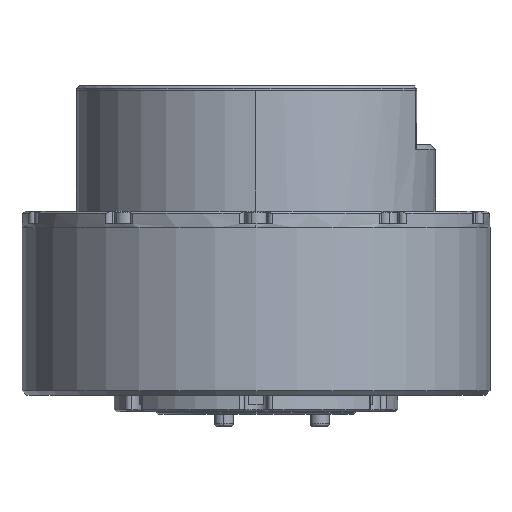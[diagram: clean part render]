
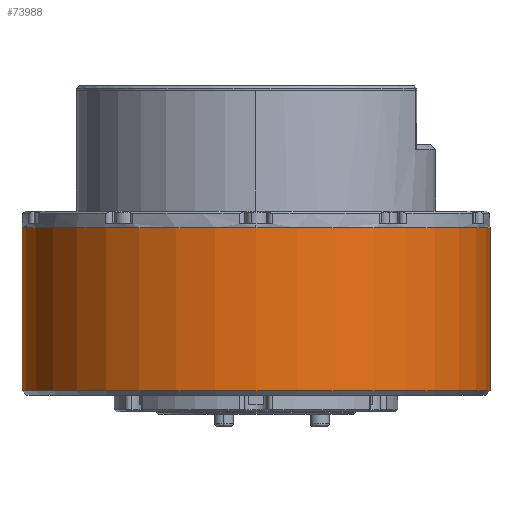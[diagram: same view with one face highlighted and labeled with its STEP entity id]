
A CAD part, front view. The second image highlights one B-rep face of the part: STEP entity #73988.
In plain terms, the highlighted cylindrical face has radius 49.5 mm (diameter 99 mm), a partial arc.
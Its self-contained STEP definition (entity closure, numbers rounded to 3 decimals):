
#1704 = CARTESIAN_POINT ( 'NONE',  ( -49.5, 0., 26.8 ) ) ;
#3002 = DIRECTION ( 'NONE',  ( 0., 0., -1. ) ) ;
#3659 = DIRECTION ( 'NONE',  ( 0., 0., -1. ) ) ;
#4248 = CARTESIAN_POINT ( 'NONE',  ( 0., 0., -7.7 ) ) ;
#10854 = AXIS2_PLACEMENT_3D ( 'NONE', #27678, #46498, #73184 ) ;
#14953 = VERTEX_POINT ( 'NONE', #26068 ) ;
#19553 = VERTEX_POINT ( 'NONE', #1704 ) ;
#21009 = CYLINDRICAL_SURFACE ( 'NONE', #10854, 49.5 ) ;
#23370 = VERTEX_POINT ( 'NONE', #61878 ) ;
#24721 = EDGE_CURVE ( 'NONE', #14953, #51519, #60222, .T. ) ;
#26068 = CARTESIAN_POINT ( 'NONE',  ( 49.5, 0., 26.8 ) ) ;
#27678 = CARTESIAN_POINT ( 'NONE',  ( 0., 0., 31.3 ) ) ;
#27885 = ORIENTED_EDGE ( 'NONE', *, *, #52340, .F. ) ;
#31996 = CIRCLE ( 'NONE', #38598, 49.5 ) ;
#32155 = AXIS2_PLACEMENT_3D ( 'NONE', #4248, #36814, #75615 ) ;
#36814 = DIRECTION ( 'NONE',  ( 0., 0., 1. ) ) ;
#38598 = AXIS2_PLACEMENT_3D ( 'NONE', #82381, #69882, #56912 ) ;
#40485 = VECTOR ( 'NONE', #3002, 1000. ) ;
#43722 = LINE ( 'NONE', #60874, #65801 ) ;
#46498 = DIRECTION ( 'NONE',  ( 0., 0., -1. ) ) ;
#46731 = EDGE_CURVE ( 'NONE', #19553, #23370, #43722, .T. ) ;
#49482 = CIRCLE ( 'NONE', #32155, 49.5 ) ;
#51519 = VERTEX_POINT ( 'NONE', #61425 ) ;
#52340 = EDGE_CURVE ( 'NONE', #19553, #14953, #31996, .T. ) ;
#56912 = DIRECTION ( 'NONE',  ( 1., 0., 0. ) ) ;
#60222 = LINE ( 'NONE', #67727, #40485 ) ;
#60874 = CARTESIAN_POINT ( 'NONE',  ( -49.5, 0., 31.3 ) ) ;
#61425 = CARTESIAN_POINT ( 'NONE',  ( 49.5, 0., -7.7 ) ) ;
#61878 = CARTESIAN_POINT ( 'NONE',  ( -49.5, 0., -7.7 ) ) ;
#63103 = EDGE_LOOP ( 'NONE', ( #74486, #27885, #63839, #68994 ) ) ;
#63839 = ORIENTED_EDGE ( 'NONE', *, *, #46731, .T. ) ;
#65801 = VECTOR ( 'NONE', #3659, 1000. ) ;
#67727 = CARTESIAN_POINT ( 'NONE',  ( 49.5, 0., 31.3 ) ) ;
#68864 = EDGE_CURVE ( 'NONE', #23370, #51519, #49482, .T. ) ;
#68994 = ORIENTED_EDGE ( 'NONE', *, *, #68864, .T. ) ;
#69882 = DIRECTION ( 'NONE',  ( 0., 0., 1. ) ) ;
#73184 = DIRECTION ( 'NONE',  ( -1., 0., 0. ) ) ;
#73988 = ADVANCED_FACE ( 'NONE', ( #78213 ), #21009, .T. ) ;
#74486 = ORIENTED_EDGE ( 'NONE', *, *, #24721, .F. ) ;
#75615 = DIRECTION ( 'NONE',  ( 1., 0., 0. ) ) ;
#78213 = FACE_OUTER_BOUND ( 'NONE', #63103, .T. ) ;
#82381 = CARTESIAN_POINT ( 'NONE',  ( 0., 0., 26.8 ) ) ;
